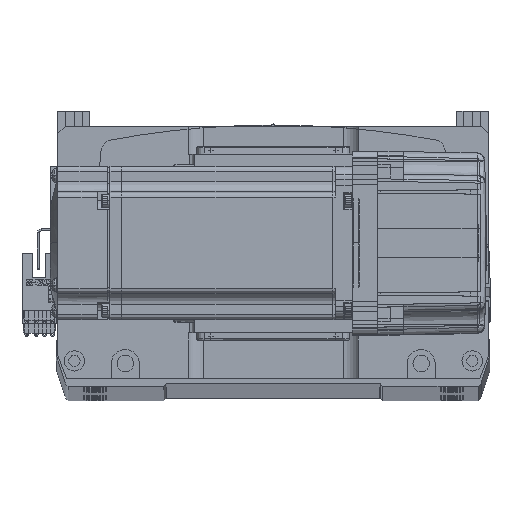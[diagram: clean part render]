
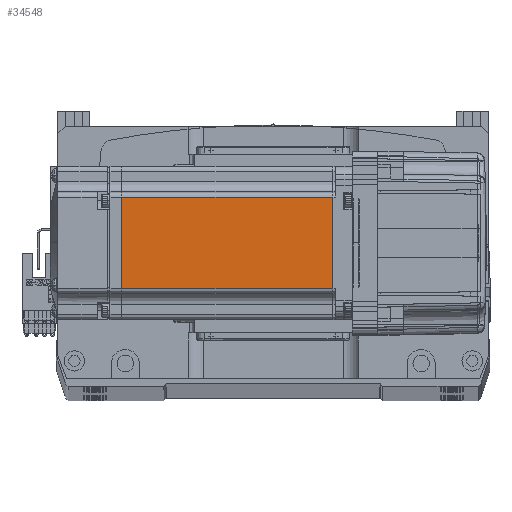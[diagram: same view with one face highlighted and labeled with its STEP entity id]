
A CAD part, top view. The second image highlights one B-rep face of the part: STEP entity #34548.
In plain terms, the highlighted planar face has unit normal (0, 0, 1).
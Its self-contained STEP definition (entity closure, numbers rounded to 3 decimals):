
#7774 = VERTEX_POINT ( 'NONE', #27253 ) ;
#10429 = VERTEX_POINT ( 'NONE', #52886 ) ;
#10715 = DIRECTION ( 'NONE',  ( -1., 0., 0. ) ) ;
#13760 = VECTOR ( 'NONE', #42912, 1000. ) ;
#16132 = EDGE_CURVE ( 'NONE', #10429, #7774, #55173, .T. ) ;
#18912 = VERTEX_POINT ( 'NONE', #24152 ) ;
#18925 = CARTESIAN_POINT ( 'NONE',  ( -7.75, 0., 30. ) ) ;
#21245 = ORIENTED_EDGE ( 'NONE', *, *, #58089, .T. ) ;
#21843 = CARTESIAN_POINT ( 'NONE',  ( -6.5, 18., 30. ) ) ;
#24152 = CARTESIAN_POINT ( 'NONE',  ( -90.45, -18., 30. ) ) ;
#26107 = EDGE_CURVE ( 'NONE', #66636, #18912, #30132, .T. ) ;
#26524 = ORIENTED_EDGE ( 'NONE', *, *, #26107, .F. ) ;
#27253 = CARTESIAN_POINT ( 'NONE',  ( -90.45, 18., 30. ) ) ;
#27431 = VECTOR ( 'NONE', #10715, 1000. ) ;
#27498 = LINE ( 'NONE', #18925, #63837 ) ;
#30132 = LINE ( 'NONE', #69984, #13760 ) ;
#31471 = ORIENTED_EDGE ( 'NONE', *, *, #49024, .F. ) ;
#34548 = ADVANCED_FACE ( 'NONE', ( #71040 ), #52812, .T. ) ;
#35687 = ORIENTED_EDGE ( 'NONE', *, *, #16132, .T. ) ;
#36824 = CARTESIAN_POINT ( 'NONE',  ( -7.75, -18., 30. ) ) ;
#41191 = DIRECTION ( 'NONE',  ( 0., -1., 0. ) ) ;
#42597 = VECTOR ( 'NONE', #61639, 1000. ) ;
#42912 = DIRECTION ( 'NONE',  ( -1., 0., 0. ) ) ;
#47031 = DIRECTION ( 'NONE',  ( 0., 0., 1. ) ) ;
#49024 = EDGE_CURVE ( 'NONE', #10429, #66636, #27498, .T. ) ;
#52336 = CARTESIAN_POINT ( 'NONE',  ( -6.5, -25., 30. ) ) ;
#52812 = PLANE ( 'NONE',  #65712 ) ;
#52886 = CARTESIAN_POINT ( 'NONE',  ( -7.75, 18., 30. ) ) ;
#55173 = LINE ( 'NONE', #21843, #27431 ) ;
#58089 = EDGE_CURVE ( 'NONE', #7774, #18912, #59869, .T. ) ;
#59869 = LINE ( 'NONE', #67216, #42597 ) ;
#61639 = DIRECTION ( 'NONE',  ( 0., -1., 0. ) ) ;
#63837 = VECTOR ( 'NONE', #41191, 1000. ) ;
#64130 = DIRECTION ( 'NONE',  ( 1., 0., 0. ) ) ;
#64764 = EDGE_LOOP ( 'NONE', ( #31471, #35687, #21245, #26524 ) ) ;
#65712 = AXIS2_PLACEMENT_3D ( 'NONE', #52336, #47031, #64130 ) ;
#66636 = VERTEX_POINT ( 'NONE', #36824 ) ;
#67216 = CARTESIAN_POINT ( 'NONE',  ( -90.45, 0., 30. ) ) ;
#69984 = CARTESIAN_POINT ( 'NONE',  ( -6.5, -18., 30. ) ) ;
#71040 = FACE_OUTER_BOUND ( 'NONE', #64764, .T. ) ;
